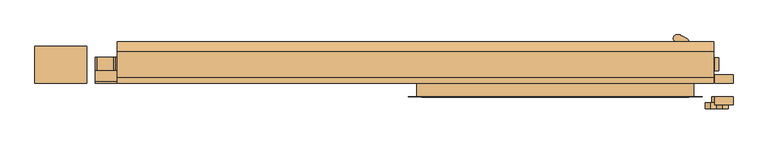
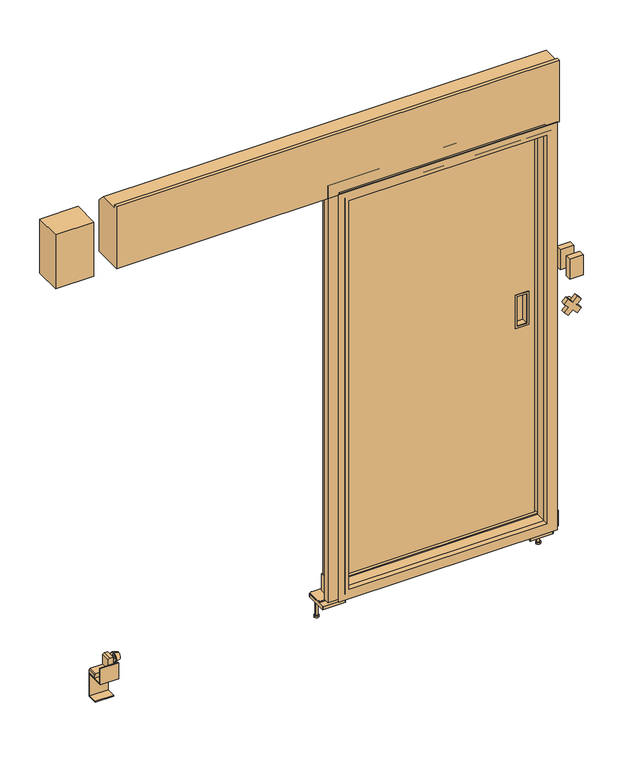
"""IFC4 building model written with IfcOpenShell, lengths in millimetres: door geometry, 冷蔵_片引きスライドドア4方_電動 : W870xH1800xt55."""

from ifc_helpers import new_model, si_unit, point, frame, frame_2d, origin, place, context, project, spatial, polyline, circle_curve, trimmed, segment, composite_curve, outline, extrude, faceted_brep, source, transform, mapped, element, save
from ifc_brep_helpers import plane_surface, cylinder_surface, revolved_surface, advanced_brep


def door_b3f44f39(model_context):
    return source(origin(), model_context, "Body", "SolidModel", [
        faceted_brep([(470.0, 112.5, 1835.0), (-470.0, 112.5, 1835.0), (-470.0, 68.5, 1835.0), (470.0, 68.5, 1835.0), (470.0, 112.5, -35.0), (470.0, 68.5, -35.0), (-470.0, 68.5, -35.0), (-470.0, 112.5, -35.0), (-425.0, 68.5, 1790.0), (425.0, 68.5, 1790.0), (425.0, 68.5, 10.0), (-425.0, 68.5, 10.0), (-425.0, 57.5, 1790.0), (425.0, 57.5, 1790.0), (425.0, 57.5, 10.0), (-425.0, 57.5, 10.0), (350.500035, 57.5, 1033.0), (390.500035, 57.5, 1033.0), (390.500035, 57.5, 897.0), (350.500035, 57.5, 897.0), (350.500035, 85.5, 1033.0), (390.500035, 85.5, 1033.0), (350.500035, 85.5, 897.0), (390.500035, 85.5, 897.0)], [[[0, 1, 2, 3]], [[4, 5, 6, 7]], [[1, 0, 4, 7]], [[2, 1, 7, 6]], [[3, 2, 6, 5], [8, 9, 10, 11]], [[0, 3, 5, 4]], [[8, 12, 13, 9]], [[10, 14, 15, 11]], [[12, 8, 11, 15]], [[13, 12, 15, 14], [16, 17, 18, 19]], [[9, 13, 14, 10]], [[20, 21, 17, 16]], [[20, 16, 19, 22]], [[22, 19, 18, 23]], [[17, 21, 23, 18]], [[21, 20, 22, 23]]]),
        extrude(outline(polyline([(1042.0, 399.500035), (1042.0, 341.500035), (888.0, 341.500035), (888.0, 399.500035), (1042.0, 399.500035)]), holes=[polyline([(897.0, 390.500035), (897.0, 350.500035), (1033.0, 350.500035), (1033.0, 390.500035), (897.0, 390.500035)])]), frame((0.0, 55.499995, 0.0), z_axis=(0.0, 1.0, 0.0), x_axis=(0.0, 0.0, 1.0)), (0.0, 0.0, 1.0), 2.000005),
        extrude(outline(polyline([(73.49997, -69.99999), (61.49997, -57.99999), (61.49997, 5.00001), (111.49997, 5.00001), (111.49997, -69.99999), (73.49997, -69.99999)])), frame((-476.0, 0.0, 0.0), z_axis=(1.0, 0.0, 0.0), x_axis=(0.0, 1.0, 0.0)), (0.0, 0.0, 1.0), 6.0),
        extrude(outline(polyline([(73.49997, -69.99999), (61.49997, -57.99999), (61.49997, 5.00001), (111.49997, 5.00001), (111.49997, -69.99999), (73.49997, -69.99999)])), frame((470.0, 0.0, 0.0), z_axis=(1.0, 0.0, 0.0), x_axis=(0.0, 1.0, 0.0)), (0.0, 0.0, 1.0), 6.0),
        extrude(outline(polyline([(470.0, 112.5), (470.0, 77.49997), (-470.0, 77.49997), (-470.0, 112.5), (470.0, 112.5)])), frame((0.0, 0.0, -69.99999), z_axis=(0.0, 0.0, 1.0), x_axis=(1.0, 0.0, 0.0)), (0.0, 0.0, 1.0), 34.99999),
        extrude(outline(polyline([(-460.4985861, 68.5), (460.4985861, 68.5), (460.4985861, 51.499345), (-460.4985861, 51.499345), (-460.4985861, 68.5)])), frame((0.0, 0.0, -25.0), z_axis=(0.0, 0.0, 1.0), x_axis=(1.0, 0.0, 0.0)), (0.0, 0.0, 1.0), 28.0),
        extrude(outline(polyline([(460.4985861, 48.9116213), (432.5014439, 48.9116213), (432.5014439, 68.5), (460.4985861, 68.5), (460.4985861, 48.9116213)])), frame((0.0, 0.0, 10.0), z_axis=(0.0, 0.0, 1.0), x_axis=(1.0, 0.0, 0.0)), (0.0, 0.0, 1.0), 1780.0),
        extrude(outline(polyline([(-460.4985861, 48.9116213), (-460.4985861, 68.5), (-432.5014439, 68.5), (-432.5014439, 48.9116213), (-460.4985861, 48.9116213)])), frame((0.0, 0.0, 10.0), z_axis=(0.0, 0.0, 1.0), x_axis=(1.0, 0.0, 0.0)), (0.0, 0.0, 1.0), 1780.0),
        extrude(outline(polyline([(460.4985861, 68.5), (460.4985861, 48.9116213), (-460.4985861, 48.9116213), (-460.4985861, 68.5), (460.4985861, 68.5)])), frame((0.0, 0.0, 1797.4986091), z_axis=(0.0, 0.0, 1.0), x_axis=(1.0, 0.0, 0.0)), (0.0, 0.0, 1.0), 28.0),
        extrude(outline(composite_curve([segment(trimmed(circle_curve(frame_2d((-405.4890522, 152.0220459)), 2.0), [point((-405.4890522, 154.0220459))], [point((-403.4890522, 152.0220459))], False, "CARTESIAN"), True, "CONTINUOUS"), segment(polyline([(-403.4890522, 152.0220459), (-403.4890522, 54.0220459)]), True, "CONTINUOUS"), segment(trimmed(circle_curve(frame_2d((-405.4890522, 54.0220459)), 2.0), [point((-403.4890522, 54.0220459))], [point((-405.4890522, 52.0220459))], False, "CARTESIAN"), True, "CONTINUOUS"), segment(polyline([(-405.4890522, 52.0220459), (-503.4890522, 52.0220459)]), True, "CONTINUOUS"), segment(trimmed(circle_curve(frame_2d((-503.4890522, 54.0220459)), 2.0), [point((-503.4890522, 52.0220459))], [point((-505.4890522, 54.0220459))], False, "CARTESIAN"), True, "CONTINUOUS"), segment(polyline([(-505.4890522, 54.0220459), (-505.4890522, 152.0220459)]), True, "CONTINUOUS"), segment(trimmed(circle_curve(frame_2d((-503.4890522, 152.0220459)), 2.0), [point((-505.4890522, 152.0220459))], [point((-503.4890522, 154.0220459))], False, "CARTESIAN"), True, "CONTINUOUS"), segment(polyline([(-503.4890522, 154.0220459), (-405.4890522, 154.0220459)]), True, "CONTINUOUS")], self_intersect=False)), frame((0.0, 0.0, -115.0), z_axis=(0.0, 0.0, 1.0), x_axis=(1.0, 0.0, 0.0)), (0.0, 0.0, 1.0), 15.0),
        extrude(outline(composite_curve([segment(trimmed(circle_curve(frame_2d((503.00008, 152.0)), 2.0), [point((503.00008, 154.0))], [point((505.00008, 152.0))], False, "CARTESIAN"), True, "CONTINUOUS"), segment(polyline([(505.00008, 152.0), (505.00008, 54.0)]), True, "CONTINUOUS"), segment(trimmed(circle_curve(frame_2d((503.00008, 54.0)), 2.0), [point((505.00008, 54.0))], [point((503.00008, 52.0))], False, "CARTESIAN"), True, "CONTINUOUS"), segment(polyline([(503.00008, 52.0), (405.00008, 52.0)]), True, "CONTINUOUS"), segment(trimmed(circle_curve(frame_2d((405.00008, 54.0)), 2.0), [point((405.00008, 52.0))], [point((403.00008, 54.0))], False, "CARTESIAN"), True, "CONTINUOUS"), segment(polyline([(403.00008, 54.0), (403.00008, 152.0)]), True, "CONTINUOUS"), segment(trimmed(circle_curve(frame_2d((405.00008, 152.0)), 2.0), [point((403.00008, 152.0))], [point((405.00008, 154.0))], False, "CARTESIAN"), True, "CONTINUOUS"), segment(polyline([(405.00008, 154.0), (503.00008, 154.0)]), True, "CONTINUOUS")], self_intersect=False)), frame((0.0, 0.0, -115.0), z_axis=(0.0, 0.0, 1.0), x_axis=(1.0, 0.0, 0.0)), (0.0, 0.0, 1.0), 15.0),
        extrude(outline(composite_curve([segment(polyline([(-433.999205, 141.49999), (-433.999205, 90.49999)]), True, "CONTINUOUS"), segment(trimmed(circle_curve(frame_2d((-443.999205, 90.49999)), 10.0), [point((-433.999205, 90.49999))], [point((-443.999205, 80.49999))], False, "CARTESIAN"), True, "CONTINUOUS"), segment(polyline([(-443.999205, 80.49999), (-495.0, 80.49999)]), True, "CONTINUOUS"), segment(trimmed(circle_curve(frame_2d((-495.0, 90.49999)), 10.0), [point((-495.0, 80.49999))], [point((-505.0, 90.49999))], False, "CARTESIAN"), True, "CONTINUOUS"), segment(polyline([(-505.0, 90.49999), (-505.0, 141.49999)]), True, "CONTINUOUS"), segment(trimmed(circle_curve(frame_2d((-495.0, 141.49999)), 10.0), [point((-505.0, 141.49999))], [point((-495.0, 151.49999))], False, "CARTESIAN"), True, "CONTINUOUS"), segment(polyline([(-495.0, 151.49999), (-443.999205, 151.49999)]), True, "CONTINUOUS"), segment(trimmed(circle_curve(frame_2d((-443.999205, 141.49999)), 10.0), [point((-443.999205, 151.49999))], [point((-433.999205, 141.49999))], False, "CARTESIAN"), True, "CONTINUOUS")], self_intersect=False)), frame((0.0, 0.0, -100.0), z_axis=(0.0, 0.0, 1.0), x_axis=(1.0, 0.0, 0.0)), (0.0, 0.0, 1.0), 6.0),
        extrude(outline(composite_curve([segment(polyline([(504.50016, 141.49999), (504.50016, 90.49999)]), True, "CONTINUOUS"), segment(trimmed(circle_curve(frame_2d((494.50016, 90.49999)), 10.0), [point((504.50016, 90.49999))], [point((494.50016, 80.49999))], False, "CARTESIAN"), True, "CONTINUOUS"), segment(polyline([(494.50016, 80.49999), (443.499365, 80.49999)]), True, "CONTINUOUS"), segment(trimmed(circle_curve(frame_2d((443.499365, 90.49999)), 10.0), [point((443.499365, 80.49999))], [point((433.499365, 90.49999))], False, "CARTESIAN"), True, "CONTINUOUS"), segment(polyline([(433.499365, 90.49999), (433.499365, 141.49999)]), True, "CONTINUOUS"), segment(trimmed(circle_curve(frame_2d((443.499365, 141.49999)), 10.0), [point((433.499365, 141.49999))], [point((443.499365, 151.49999))], False, "CARTESIAN"), True, "CONTINUOUS"), segment(polyline([(443.499365, 151.49999), (494.50016, 151.49999)]), True, "CONTINUOUS"), segment(trimmed(circle_curve(frame_2d((494.50016, 141.49999)), 10.0), [point((494.50016, 151.49999))], [point((504.50016, 141.49999))], False, "CARTESIAN"), True, "CONTINUOUS")], self_intersect=False)), frame((0.0, 0.0, -100.0), z_axis=(0.0, 0.0, 1.0), x_axis=(1.0, 0.0, 0.0)), (0.0, 0.0, 1.0), 6.0),
        extrude(outline(polyline([(-93.999374, 532.0), (-24.00937, 532.0), (-24.00229, 517.0), (-29.00275, 511.99999), (-74.00938, 511.99999), (-74.00689, 457.0), (-79.00735, 451.99999), (-94.00939, 451.99999), (-93.999374, 532.0)])), frame((0.0, 61.99775, 0.0), z_axis=(0.0, 1.0, 0.0), x_axis=(0.0, 0.0, 1.0)), (0.0, 0.0, 1.0), 42.00225),
        extrude(outline(polyline([(1037.123106, 544.9454365), (1017.6776695, 525.5), (1037.123106, 506.0545635), (1019.4454365, 488.376894), (1000.0, 507.8223305), (980.5545635, 488.376894), (962.876894, 506.0545635), (982.3223305, 525.5), (962.876894, 544.9454365), (980.5545635, 562.623106), (1000.0, 543.1776695), (1019.4454365, 562.623106), (1037.123106, 544.9454365)])), frame((0.0, -62.0, 0.0), z_axis=(0.0, 1.0, 0.0), x_axis=(0.0, 0.0, 1.0)), (0.0, 0.0, 1.0), 20.0),
        extrude(outline(composite_curve([segment(trimmed(circle_curve(frame_2d((1000.0, 525.5)), 16.99999), [point((983.00001, 525.5))], [point((1016.99999, 525.5))], False, "CARTESIAN"), True, "CONTINUOUS"), segment(trimmed(circle_curve(frame_2d((1000.0, 525.5)), 16.99999), [point((1016.99999, 525.5))], [point((983.00001, 525.5))], False, "CARTESIAN"), True, "CONTINUOUS")], self_intersect=False)), frame((0.0, -42.0, 0.0), z_axis=(0.0, 1.0, 0.0), x_axis=(0.0, 0.0, 1.0)), (0.0, 0.0, 1.0), 20.0),
        advanced_brep(
        [(-1404.999995, 85.0, -58.99311), (-1404.999995, 85.0, -19.0), (-1404.999995, 85.0, -30.996555), (-1404.999995, 85.0, -46.996555), (-1400.999995, 85.0, -58.99311), (-1400.999995, 85.0, -19.0), (-1380.999995, 85.0, -53.9931073), (-1380.999995, 85.0, -24.0000027), (-1380.999995, 85.0, -38.996555), (-1416.99999, 85.0, -46.996555), (-1416.99999, 85.0, -30.996555), (-1416.99999, 85.0, -38.996555)],
        [
            (0, 1, circle_curve(frame((-1404.999995, 85.0, -38.996555), z_axis=(-1.0, 0.0, 0.0), x_axis=(0.0, 0.0, 1.0)), 19.996555)),
            (1, 2),
            (2, 3, circle_curve(frame((-1404.999995, 85.0, -38.996555), z_axis=(1.0, 0.0, 0.0), x_axis=(0.0, 0.0, 1.0)), 8.0)),
            (3, 0),
            (1, 0, circle_curve(frame((-1404.999995, 85.0, -38.996555), z_axis=(-1.0, 0.0, 0.0), x_axis=(0.0, 0.0, 1.0)), 19.996555)),
            (3, 2, circle_curve(frame((-1404.999995, 85.0, -38.996555), z_axis=(1.0, 0.0, 0.0), x_axis=(0.0, 0.0, 1.0)), 8.0)),
            (4, 5, circle_curve(frame((-1400.999995, 85.0, -38.996555), z_axis=(-1.0, 0.0, 0.0), x_axis=(0.0, 0.0, 1.0)), 19.996555)),
            (5, 1),
            (0, 4),
            (5, 4, circle_curve(frame((-1400.999995, 85.0, -38.996555), z_axis=(-1.0, 0.0, 0.0), x_axis=(0.0, 0.0, 1.0)), 19.996555)),
            (6, 7, circle_curve(frame((-1380.999995, 85.0, -38.996555), z_axis=(-1.0, 0.0, 0.0), x_axis=(0.0, 0.0, 1.0)), 14.9965523)),
            (7, 5),
            (4, 6),
            (7, 6, circle_curve(frame((-1380.999995, 85.0, -38.996555), z_axis=(-1.0, 0.0, 0.0), x_axis=(0.0, 0.0, 1.0)), 14.9965523)),
            (8, 7),
            (6, 8),
            (9, 10, circle_curve(frame((-1416.99999, 85.0, -38.996555), z_axis=(-1.0, 0.0, 0.0), x_axis=(0.0, 0.0, 1.0)), 8.0)),
            (10, 11),
            (11, 9),
            (10, 9, circle_curve(frame((-1416.99999, 85.0, -38.996555), z_axis=(-1.0, 0.0, 0.0), x_axis=(0.0, 0.0, 1.0)), 8.0)),
            (2, 10),
            (9, 3),
        ],
        [
            plane_surface(frame((-1404.999995, 85.0, -38.996555), z_axis=(-1.0, 0.0, 0.0), x_axis=(0.0, 0.0, 1.0))),
            cylinder_surface(frame((-1380.999995, 85.0, -38.996555), z_axis=(1.0, 0.0, 0.0), x_axis=(0.0, 0.0, 1.0)), 19.996555),
            revolved_surface(polyline([(-1400.999995, 85.0, -19.0), (-1380.999995, 85.0, -24.0000027)]), (-1380.999995, 85.0, -38.996555), (1.0, 0.0, 0.0)),
            plane_surface(frame((-1380.999995, 85.0, -38.996555), z_axis=(1.0, 0.0, 0.0), x_axis=(0.0, 0.0, 1.0))),
            plane_surface(frame((-1416.99999, 85.0, -38.996555), z_axis=(-1.0, 0.0, 0.0), x_axis=(0.0, 0.0, 1.0))),
            cylinder_surface(frame((-1380.999995, 85.0, -38.996555), z_axis=(1.0, 0.0, 0.0), x_axis=(0.0, 0.0, 1.0)), 8.0),
        ],
        [
            (0, [[1, 2, 3, 4]]),
            (0, [[5, -4, 6, -2]]),
            (1, [[7, 8, -1, 9]]),
            (1, [[10, -9, -5, -8]]),
            (2, [[11, 12, -7, 13]]),
            (2, [[14, -13, -10, -12]]),
            (3, [[15, -11, 16]]),
            (3, [[-16, -14, -15]]),
            (4, [[17, 18, 19]]),
            (4, [[20, -19, -18]]),
            (5, [[-3, 21, -17, 22]]),
            (5, [[-6, -22, -20, -21]]),
        ],
    ),
        extrude(outline(polyline([(-91.983954, -1416.99999), (-21.99395, -1416.99999), (-21.98687, -1431.99999), (-26.98733, -1437.0), (-71.99396, -1437.0), (-71.99147, -1491.99999), (-76.99193, -1497.0), (-91.99397, -1497.0), (-91.983954, -1416.99999)])), frame((0.0, 63.99775, 0.0), z_axis=(0.0, 1.0, 0.0), x_axis=(0.0, 0.0, 1.0)), (0.0, 0.0, 1.0), 42.00225),
        advanced_brep(
        [(499.999995, 83.0, -61.00853), (499.999995, 83.0, -21.01542), (499.999995, 83.0, -33.011975), (499.999995, 83.0, -49.011975), (495.999995, 83.0, -61.00853), (495.999995, 83.0, -21.01542), (475.999995, 83.0, -56.0085273), (475.999995, 83.0, -26.0154227), (475.999995, 83.0, -41.011975), (511.99999, 83.0, -49.011975), (511.99999, 83.0, -33.011975), (511.99999, 83.0, -41.011975)],
        [
            (0, 1, circle_curve(frame((499.999995, 83.0, -41.011975), z_axis=(1.0, 0.0, 0.0), x_axis=(0.0, 0.0, 1.0)), 19.996555)),
            (1, 2),
            (2, 3, circle_curve(frame((499.999995, 83.0, -41.011975), z_axis=(-1.0, 0.0, 0.0), x_axis=(0.0, 0.0, 1.0)), 8.0)),
            (3, 0),
            (1, 0, circle_curve(frame((499.999995, 83.0, -41.011975), z_axis=(1.0, 0.0, 0.0), x_axis=(0.0, 0.0, 1.0)), 19.996555)),
            (3, 2, circle_curve(frame((499.999995, 83.0, -41.011975), z_axis=(-1.0, 0.0, 0.0), x_axis=(0.0, 0.0, 1.0)), 8.0)),
            (4, 5, circle_curve(frame((495.999995, 83.0, -41.011975), z_axis=(1.0, 0.0, 0.0), x_axis=(0.0, 0.0, 1.0)), 19.996555)),
            (5, 1),
            (0, 4),
            (5, 4, circle_curve(frame((495.999995, 83.0, -41.011975), z_axis=(1.0, 0.0, 0.0), x_axis=(0.0, 0.0, 1.0)), 19.996555)),
            (6, 7, circle_curve(frame((475.999995, 83.0, -41.011975), z_axis=(1.0, 0.0, 0.0), x_axis=(0.0, 0.0, 1.0)), 14.9965523)),
            (7, 5),
            (4, 6),
            (7, 6, circle_curve(frame((475.999995, 83.0, -41.011975), z_axis=(1.0, 0.0, 0.0), x_axis=(0.0, 0.0, 1.0)), 14.9965523)),
            (8, 7),
            (6, 8),
            (9, 10, circle_curve(frame((511.99999, 83.0, -41.011975), z_axis=(1.0, 0.0, 0.0), x_axis=(0.0, 0.0, 1.0)), 8.0)),
            (10, 11),
            (11, 9),
            (10, 9, circle_curve(frame((511.99999, 83.0, -41.011975), z_axis=(1.0, 0.0, 0.0), x_axis=(0.0, 0.0, 1.0)), 8.0)),
            (2, 10),
            (9, 3),
        ],
        [
            plane_surface(frame((499.999995, 83.0, -41.011975), z_axis=(1.0, 0.0, 0.0), x_axis=(0.0, 0.0, 1.0))),
            cylinder_surface(frame((475.999995, 83.0, -41.011975), z_axis=(-1.0, 0.0, 0.0), x_axis=(0.0, 0.0, 1.0)), 19.996555),
            revolved_surface(polyline([(495.999995, 83.0, -21.01542), (475.999995, 83.0, -26.0154227)]), (475.999995, 83.0, -41.011975), (-1.0, 0.0, 0.0)),
            plane_surface(frame((475.999995, 83.0, -41.011975), z_axis=(-1.0, 0.0, 0.0), x_axis=(0.0, 0.0, 1.0))),
            plane_surface(frame((511.99999, 83.0, -41.011975), z_axis=(1.0, 0.0, 0.0), x_axis=(0.0, 0.0, 1.0))),
            cylinder_surface(frame((475.999995, 83.0, -41.011975), z_axis=(-1.0, 0.0, 0.0), x_axis=(0.0, 0.0, 1.0)), 8.0),
        ],
        [
            (0, [[1, 2, 3, 4]]),
            (0, [[5, -4, 6, -2]]),
            (1, [[7, 8, -1, 9]]),
            (1, [[10, -9, -5, -8]]),
            (2, [[11, 12, -7, 13]]),
            (2, [[14, -13, -10, -12]]),
            (3, [[15, -11, 16]]),
            (3, [[-16, -14, -15]]),
            (4, [[17, 18, 19]]),
            (4, [[20, -19, -18]]),
            (5, [[-3, 21, -17, 22]]),
            (5, [[-6, -22, -20, -21]]),
        ],
    ),
        extrude(outline(polyline([(155.5, 2042.61005), (155.5, 1805.000385), (22.0, 1805.000385), (22.0, 2090.0), (38.499875, 2090.0), (38.499875, 2074.99995), (123.1101, 2074.99995), (155.5, 2042.61005)])), frame((-1425.0, 0.0, 0.0), z_axis=(1.0, 0.0, 0.0), x_axis=(0.0, 1.0, 0.0)), (0.0, 0.0, 1.0), 1940.0),
        extrude(outline(polyline([(578.59682, -49.2), (518.59706, -49.2), (518.59706, -22.0), (578.59682, -22.0), (578.59682, -49.2)])), frame((0.0, 0.0, 1117.99977), z_axis=(0.0, 0.0, 1.0), x_axis=(1.0, 0.0, 0.0)), (0.0, 0.0, 1.0), 93.00027),
        extrude(outline(polyline([(578.59682, 22.0), (518.59706, 22.0), (518.59706, 49.2056305), (578.59682, 49.2056305), (578.59682, 22.0)])), frame((0.0, 0.0, 1117.99977), z_axis=(0.0, 0.0, 1.0), x_axis=(1.0, 0.0, 0.0)), (0.0, 0.0, 1.0), 93.00027),
        faceted_brep([(451.00103, 22.0, -16.00103), (451.00103, -22.0, -16.00103), (-451.00103, -22.0, -16.00103), (-451.00103, 22.0, -16.00103), (-451.00103, -22.0, 1816.00103), (-451.00103, 22.0, 1816.00103), (451.00103, -22.0, 1816.00103), (-435.0, -22.0, 1800.0), (435.0, -22.0, 1800.0), (435.0, -22.0, 0.0), (-435.0, -22.0, 0.0), (-500.0, 22.0, -65.0), (500.0, 22.0, -65.0), (500.0, 22.0, 1865.0), (-500.0, 22.0, 1865.0), (451.00103, 22.0, 1816.00103), (500.0, 49.0, -65.0), (-500.0, 49.0, -65.0), (-500.0, 49.0, 1865.0), (500.0, 49.0, 1865.0), (-435.0, 49.0, 0.0), (435.0, 49.0, 0.0), (435.0, 49.0, 1800.0), (-435.0, 49.0, 1800.0)], [[[0, 1, 2, 3]], [[3, 2, 4, 5]], [[2, 1, 6, 4], [7, 8, 9, 10]], [[11, 12, 13, 14], [5, 15, 0, 3]], [[16, 12, 11, 17]], [[17, 11, 14, 18]], [[18, 19, 16, 17], [20, 21, 22, 23]], [[9, 21, 20, 10]], [[10, 20, 23, 7]], [[15, 6, 1, 0]], [[19, 13, 12, 16]], [[8, 22, 21, 9]], [[5, 4, 6, 15]], [[18, 14, 13, 19]], [[7, 23, 22, 8]]]),
        faceted_brep([(479.0, -22.0, -44.0), (479.0, -23.2, -44.0), (-479.0, -23.2, -44.0), (-479.0, -22.0, -44.0), (-479.0, -23.2, 1844.0), (-479.0, -22.0, 1844.0), (479.0, -23.2, 1844.0), (-433.8, -23.2, 1798.8), (433.8, -23.2, 1798.8), (433.8, -23.2, 1.2), (-433.8, -23.2, 1.2), (479.0, -22.0, 1844.0), (-435.0, -22.0, 0.0), (435.0, -22.0, 0.0), (435.0, -22.0, 1800.0), (-435.0, -22.0, 1800.0), (435.0, -1.2, 0.0), (-435.0, -1.2, 0.0), (-435.0, -1.2, 1800.0), (435.0, -1.2, 1800.0), (-433.8, -1.2, 1.2), (433.8, -1.2, 1.2), (433.8, -1.2, 1798.8), (-433.8, -1.2, 1798.8)], [[[0, 1, 2, 3]], [[3, 2, 4, 5]], [[2, 1, 6, 4], [7, 8, 9, 10]], [[5, 11, 0, 3], [12, 13, 14, 15]], [[16, 13, 12, 17]], [[17, 12, 15, 18]], [[18, 19, 16, 17], [20, 21, 22, 23]], [[9, 21, 20, 10]], [[10, 20, 23, 7]], [[11, 6, 1, 0]], [[19, 14, 13, 16]], [[8, 22, 21, 9]], [[5, 4, 6, 11]], [[18, 15, 14, 19]], [[7, 23, 22, 8]]]),
        advanced_brep(
        [(408.6234406, 177.3571279, 745.0), (408.6234402, 157.6428419, 745.0), (404.50281, 156.499985, 745.0), (393.89726, 156.499985, 745.0), (389.7766295, 157.6428424, 745.0), (389.7766298, 177.3571281, 745.0), (393.89726, 178.499985, 745.0), (404.50281, 178.499985, 745.0), (408.6234406, 177.3571279, 1245.0), (408.6234402, 157.6428419, 1245.0), (404.50281, 156.499985, 1245.0), (393.89726, 156.499985, 1245.0), (389.7766295, 157.6428424, 1245.0), (389.7766298, 177.3571281, 1245.0), (393.89726, 178.499985, 1245.0), (404.50281, 178.499985, 1245.0)],
        [
            (0, 1, circle_curve(frame((402.700035, 167.499985, 745.0), z_axis=(0.0, 0.0, -1.0), x_axis=(0.0, -1.0, 0.0)), 11.5)),
            (1, 2, circle_curve(frame((404.50281, 164.499985, 745.0), z_axis=(0.0, 0.0, -1.0), x_axis=(0.0, -1.0, 0.0)), 8.0)),
            (2, 3),
            (3, 4, circle_curve(frame((393.89726, 164.499985, 745.0), z_axis=(0.0, 0.0, -1.0), x_axis=(0.0, -1.0, 0.0)), 8.0)),
            (4, 5, circle_curve(frame((395.700035, 167.499985, 745.0), z_axis=(0.0, 0.0, -1.0), x_axis=(0.0, -1.0, 0.0)), 11.5)),
            (5, 6, circle_curve(frame((393.89726, 170.499985, 745.0), z_axis=(0.0, 0.0, -1.0), x_axis=(0.0, -1.0, 0.0)), 8.0)),
            (6, 7),
            (7, 0, circle_curve(frame((404.50281, 170.499985, 745.0), z_axis=(0.0, 0.0, -1.0), x_axis=(0.0, -1.0, 0.0)), 8.0)),
            (8, 9, circle_curve(frame((402.700035, 167.499985, 1245.0), z_axis=(0.0, 0.0, -1.0), x_axis=(0.0, -1.0, 0.0)), 11.5)),
            (9, 1),
            (0, 8),
            (9, 10, circle_curve(frame((404.50281, 164.499985, 1245.0), z_axis=(0.0, 0.0, -1.0), x_axis=(0.0, -1.0, 0.0)), 8.0)),
            (10, 2),
            (10, 11),
            (11, 3),
            (11, 12, circle_curve(frame((393.89726, 164.499985, 1245.0), z_axis=(0.0, 0.0, -1.0), x_axis=(0.0, -1.0, 0.0)), 8.0)),
            (12, 4),
            (12, 13, circle_curve(frame((395.700035, 167.499985, 1245.0), z_axis=(0.0, 0.0, -1.0), x_axis=(0.0, -1.0, 0.0)), 11.5)),
            (13, 5),
            (13, 14, circle_curve(frame((393.89726, 170.499985, 1245.0), z_axis=(0.0, 0.0, -1.0), x_axis=(0.0, -1.0, 0.0)), 8.0)),
            (14, 6),
            (14, 15),
            (15, 7),
            (15, 8, circle_curve(frame((404.50281, 170.499985, 1245.0), z_axis=(0.0, 0.0, -1.0), x_axis=(0.0, -1.0, 0.0)), 8.0)),
        ],
        [
            plane_surface(frame((404.50281, 162.499985, 745.0), z_axis=(0.0, 0.0, -1.0), x_axis=(-1.0, 0.0, 0.0))),
            cylinder_surface(frame((402.700035, 167.499985, 745.0), z_axis=(0.0, 0.0, 1.0), x_axis=(0.0, -1.0, 0.0)), 11.5),
            cylinder_surface(frame((404.50281, 164.499985, 745.0), z_axis=(0.0, 0.0, 1.0), x_axis=(0.0, -1.0, 0.0)), 8.0),
            plane_surface(frame((393.89726, 156.499985, 1245.0), z_axis=(0.0, -1.0, 0.0), x_axis=(0.0, 0.0, -1.0))),
            cylinder_surface(frame((393.89726, 164.499985, 745.0), z_axis=(0.0, 0.0, 1.0), x_axis=(0.0, -1.0, 0.0)), 8.0),
            cylinder_surface(frame((395.700035, 167.499985, 745.0), z_axis=(0.0, 0.0, 1.0), x_axis=(0.0, -1.0, 0.0)), 11.5),
            cylinder_surface(frame((393.89726, 170.499985, 745.0), z_axis=(0.0, 0.0, 1.0), x_axis=(0.0, -1.0, 0.0)), 8.0),
            plane_surface(frame((404.50281, 178.499985, 1245.0), z_axis=(0.0, 1.0, 0.0), x_axis=(0.0, 0.0, -1.0))),
            cylinder_surface(frame((404.50281, 170.499985, 745.0), z_axis=(0.0, 0.0, 1.0), x_axis=(0.0, -1.0, 0.0)), 8.0),
            plane_surface(frame((404.50281, 162.499985, 1245.0), z_axis=(0.0, 0.0, 1.0), x_axis=(1.0, 0.0, 0.0))),
        ],
        [
            (0, [[1, 2, 3, 4, 5, 6, 7, 8]]),
            (1, [[9, 10, -1, 11]]),
            (2, [[12, 13, -2, -10]]),
            (3, [[14, 15, -3, -13]]),
            (4, [[16, 17, -4, -15]]),
            (5, [[18, 19, -5, -17]]),
            (6, [[20, 21, -6, -19]]),
            (7, [[22, 23, -7, -21]]),
            (8, [[24, -11, -8, -23]]),
            (9, [[-24, -22, -20, -18, -16, -14, -12, -9]]),
        ],
    ),
        advanced_brep(
        [(-486.0, 132.5, -200.0), (-476.0, 132.5, -200.0), (-496.0, 132.5, -200.0), (-491.0, 132.5, -115.0), (-481.0, 132.5, -115.0), (-486.0, 132.5, -115.0), (-491.0, 132.5, -193.0), (-481.0, 132.5, -193.0), (-496.0, 132.5, -193.0), (-476.0, 132.5, -193.0)],
        [
            (0, 1),
            (1, 2, circle_curve(frame((-486.0, 132.5, -200.0), z_axis=(0.0, 0.0, -1.0), x_axis=(1.0, 0.0, 0.0)), 10.0)),
            (2, 0),
            (2, 1, circle_curve(frame((-486.0, 132.5, -200.0), z_axis=(0.0, 0.0, -1.0), x_axis=(1.0, 0.0, 0.0)), 10.0)),
            (3, 4, circle_curve(frame((-486.0, 132.5, -115.0), z_axis=(0.0, 0.0, 1.0), x_axis=(1.0, 0.0, 0.0)), 5.0)),
            (4, 5),
            (5, 3),
            (4, 3, circle_curve(frame((-486.0, 132.5, -115.0), z_axis=(0.0, 0.0, 1.0), x_axis=(1.0, 0.0, 0.0)), 5.0)),
            (6, 7, circle_curve(frame((-486.0, 132.5, -193.0), z_axis=(0.0, 0.0, 1.0), x_axis=(1.0, 0.0, 0.0)), 5.0)),
            (7, 4),
            (3, 6),
            (7, 6, circle_curve(frame((-486.0, 132.5, -193.0), z_axis=(0.0, 0.0, 1.0), x_axis=(1.0, 0.0, 0.0)), 5.0)),
            (8, 9, circle_curve(frame((-486.0, 132.5, -193.0), z_axis=(0.0, 0.0, 1.0), x_axis=(1.0, 0.0, 0.0)), 10.0)),
            (9, 7),
            (6, 8),
            (9, 8, circle_curve(frame((-486.0, 132.5, -193.0), z_axis=(0.0, 0.0, 1.0), x_axis=(1.0, 0.0, 0.0)), 10.0)),
            (1, 9),
            (8, 2),
        ],
        [
            plane_surface(frame((-486.0, 132.5, -200.0), z_axis=(0.0, 0.0, -1.0), x_axis=(1.0, 0.0, 0.0))),
            plane_surface(frame((-486.0, 132.5, -115.0), z_axis=(0.0, 0.0, 1.0), x_axis=(1.0, 0.0, 0.0))),
            cylinder_surface(frame((-486.0, 132.5, -262.0), z_axis=(0.0, 0.0, -1.0), x_axis=(1.0, 0.0, 0.0)), 5.0),
            plane_surface(frame((-486.0, 132.5, -193.0), z_axis=(0.0, 0.0, 1.0), x_axis=(1.0, 0.0, 0.0))),
            cylinder_surface(frame((-486.0, 132.5, -262.0), z_axis=(0.0, 0.0, -1.0), x_axis=(1.0, 0.0, 0.0)), 10.0),
        ],
        [
            (0, [[1, 2, 3]]),
            (0, [[-3, 4, -1]]),
            (1, [[5, 6, 7]]),
            (1, [[8, -7, -6]]),
            (2, [[9, 10, -5, 11]]),
            (2, [[12, -11, -8, -10]]),
            (3, [[13, 14, -9, 15]]),
            (3, [[16, -15, -12, -14]]),
            (4, [[-2, 17, -13, 18]]),
            (4, [[-4, -18, -16, -17]]),
        ],
    ),
        advanced_brep(
        [(485.50016, 132.5, -200.0), (495.50016, 132.5, -200.0), (475.50016, 132.5, -200.0), (480.50016, 132.5, -115.0), (490.50016, 132.5, -115.0), (485.50016, 132.5, -115.0), (480.50016, 132.5, -193.0), (490.50016, 132.5, -193.0), (475.50016, 132.5, -193.0), (495.50016, 132.5, -193.0)],
        [
            (0, 1),
            (1, 2, circle_curve(frame((485.50016, 132.5, -200.0), z_axis=(0.0, 0.0, -1.0), x_axis=(1.0, 0.0, 0.0)), 10.0)),
            (2, 0),
            (2, 1, circle_curve(frame((485.50016, 132.5, -200.0), z_axis=(0.0, 0.0, -1.0), x_axis=(1.0, 0.0, 0.0)), 10.0)),
            (3, 4, circle_curve(frame((485.50016, 132.5, -115.0), z_axis=(0.0, 0.0, 1.0), x_axis=(1.0, 0.0, 0.0)), 5.0)),
            (4, 5),
            (5, 3),
            (4, 3, circle_curve(frame((485.50016, 132.5, -115.0), z_axis=(0.0, 0.0, 1.0), x_axis=(1.0, 0.0, 0.0)), 5.0)),
            (6, 7, circle_curve(frame((485.50016, 132.5, -193.0), z_axis=(0.0, 0.0, 1.0), x_axis=(1.0, 0.0, 0.0)), 5.0)),
            (7, 4),
            (3, 6),
            (7, 6, circle_curve(frame((485.50016, 132.5, -193.0), z_axis=(0.0, 0.0, 1.0), x_axis=(1.0, 0.0, 0.0)), 5.0)),
            (8, 9, circle_curve(frame((485.50016, 132.5, -193.0), z_axis=(0.0, 0.0, 1.0), x_axis=(1.0, 0.0, 0.0)), 10.0)),
            (9, 7),
            (6, 8),
            (9, 8, circle_curve(frame((485.50016, 132.5, -193.0), z_axis=(0.0, 0.0, 1.0), x_axis=(1.0, 0.0, 0.0)), 10.0)),
            (1, 9),
            (8, 2),
        ],
        [
            plane_surface(frame((485.50016, 132.5, -200.0), z_axis=(0.0, 0.0, -1.0), x_axis=(1.0, 0.0, 0.0))),
            plane_surface(frame((485.50016, 132.5, -115.0), z_axis=(0.0, 0.0, 1.0), x_axis=(1.0, 0.0, 0.0))),
            cylinder_surface(frame((485.50016, 132.5, -262.0), z_axis=(0.0, 0.0, -1.0), x_axis=(1.0, 0.0, 0.0)), 5.0),
            plane_surface(frame((485.50016, 132.5, -193.0), z_axis=(0.0, 0.0, 1.0), x_axis=(1.0, 0.0, 0.0))),
            cylinder_surface(frame((485.50016, 132.5, -262.0), z_axis=(0.0, 0.0, -1.0), x_axis=(1.0, 0.0, 0.0)), 10.0),
        ],
        [
            (0, [[1, 2, 3]]),
            (0, [[-3, 4, -1]]),
            (1, [[5, 6, 7]]),
            (1, [[8, -7, -6]]),
            (2, [[9, 10, -5, 11]]),
            (2, [[12, -11, -8, -10]]),
            (3, [[13, 14, -9, 15]]),
            (3, [[16, -15, -12, -14]]),
            (4, [[-2, 17, -13, 18]]),
            (4, [[-4, -18, -16, -17]]),
        ],
    ),
        advanced_brep(
        [(460.499365, 132.5, -72.0), (444.499365, 132.5, -72.0), (444.499365, 132.5, -94.0), (460.499365, 132.5, -94.0), (452.499365, 132.5, -94.0), (452.499365, 132.5, -47.0), (440.499365, 132.5, -47.0), (464.499365, 132.5, -47.0), (440.499365, 132.5, -72.0), (464.499365, 132.5, -72.0)],
        [
            (0, 1, circle_curve(frame((452.499365, 132.5, -72.0), z_axis=(0.0, 0.0, -1.0), x_axis=(-1.0, 0.0, 0.0)), 8.0)),
            (1, 2),
            (2, 3, circle_curve(frame((452.499365, 132.5, -94.0), z_axis=(0.0, 0.0, 1.0), x_axis=(-1.0, 0.0, 0.0)), 8.0)),
            (3, 0),
            (1, 0, circle_curve(frame((452.499365, 132.5, -72.0), z_axis=(0.0, 0.0, -1.0), x_axis=(-1.0, 0.0, 0.0)), 8.0)),
            (3, 2, circle_curve(frame((452.499365, 132.5, -94.0), z_axis=(0.0, 0.0, 1.0), x_axis=(-1.0, 0.0, 0.0)), 8.0)),
            (2, 4),
            (4, 3),
            (5, 6),
            (6, 7, circle_curve(frame((452.499365, 132.5, -47.0), z_axis=(0.0, 0.0, 1.0), x_axis=(-1.0, 0.0, 0.0)), 12.0)),
            (7, 5),
            (7, 6, circle_curve(frame((452.499365, 132.5, -47.0), z_axis=(0.0, 0.0, 1.0), x_axis=(-1.0, 0.0, 0.0)), 12.0)),
            (6, 8),
            (8, 9, circle_curve(frame((452.499365, 132.5, -72.0), z_axis=(0.0, 0.0, 1.0), x_axis=(-1.0, 0.0, 0.0)), 12.0)),
            (9, 7),
            (9, 8, circle_curve(frame((452.499365, 132.5, -72.0), z_axis=(0.0, 0.0, 1.0), x_axis=(-1.0, 0.0, 0.0)), 12.0)),
            (8, 1),
            (0, 9),
        ],
        [
            cylinder_surface(frame((452.499365, 132.5, -108.3617704), z_axis=(0.0, 0.0, 1.0), x_axis=(-1.0, 0.0, 0.0)), 8.0),
            plane_surface(frame((452.499365, 132.5, -94.0), z_axis=(0.0, 0.0, -1.0), x_axis=(-1.0, 0.0, 0.0))),
            plane_surface(frame((452.499365, 132.5, -47.0), z_axis=(0.0, 0.0, 1.0), x_axis=(-1.0, 0.0, 0.0))),
            cylinder_surface(frame((452.499365, 132.5, -108.3617704), z_axis=(0.0, 0.0, 1.0), x_axis=(-1.0, 0.0, 0.0)), 12.0),
            plane_surface(frame((452.499365, 132.5, -72.0), z_axis=(0.0, 0.0, -1.0), x_axis=(-1.0, 0.0, 0.0))),
        ],
        [
            (0, [[1, 2, 3, 4]]),
            (0, [[5, -4, 6, -2]]),
            (1, [[-3, 7, 8]]),
            (1, [[-6, -8, -7]]),
            (2, [[9, 10, 11]]),
            (2, [[-11, 12, -9]]),
            (3, [[-10, 13, 14, 15]]),
            (3, [[-12, -15, 16, -13]]),
            (4, [[-14, 17, -1, 18]]),
            (4, [[-16, -18, -5, -17]]),
        ],
    ),
        advanced_brep(
        [(-444.999205, 99.5, -72.0), (-460.999205, 99.5, -72.0), (-460.999205, 99.5, -94.0), (-444.999205, 99.5, -94.0), (-452.999205, 99.5, -94.0), (-452.999205, 99.5, -47.0), (-464.999205, 99.5, -47.0), (-440.999205, 99.5, -47.0), (-464.999205, 99.5, -72.0), (-440.999205, 99.5, -72.0)],
        [
            (0, 1, circle_curve(frame((-452.999205, 99.5, -72.0), z_axis=(0.0, 0.0, -1.0), x_axis=(-1.0, 0.0, 0.0)), 8.0)),
            (1, 2),
            (2, 3, circle_curve(frame((-452.999205, 99.5, -94.0), z_axis=(0.0, 0.0, 1.0), x_axis=(-1.0, 0.0, 0.0)), 8.0)),
            (3, 0),
            (1, 0, circle_curve(frame((-452.999205, 99.5, -72.0), z_axis=(0.0, 0.0, -1.0), x_axis=(-1.0, 0.0, 0.0)), 8.0)),
            (3, 2, circle_curve(frame((-452.999205, 99.5, -94.0), z_axis=(0.0, 0.0, 1.0), x_axis=(-1.0, 0.0, 0.0)), 8.0)),
            (2, 4),
            (4, 3),
            (5, 6),
            (6, 7, circle_curve(frame((-452.999205, 99.5, -47.0), z_axis=(0.0, 0.0, 1.0), x_axis=(-1.0, 0.0, 0.0)), 12.0)),
            (7, 5),
            (7, 6, circle_curve(frame((-452.999205, 99.5, -47.0), z_axis=(0.0, 0.0, 1.0), x_axis=(-1.0, 0.0, 0.0)), 12.0)),
            (6, 8),
            (8, 9, circle_curve(frame((-452.999205, 99.5, -72.0), z_axis=(0.0, 0.0, 1.0), x_axis=(-1.0, 0.0, 0.0)), 12.0)),
            (9, 7),
            (9, 8, circle_curve(frame((-452.999205, 99.5, -72.0), z_axis=(0.0, 0.0, 1.0), x_axis=(-1.0, 0.0, 0.0)), 12.0)),
            (8, 1),
            (0, 9),
        ],
        [
            cylinder_surface(frame((-452.999205, 99.5, -108.3617704), z_axis=(0.0, 0.0, 1.0), x_axis=(-1.0, 0.0, 0.0)), 8.0),
            plane_surface(frame((-452.999205, 99.5, -94.0), z_axis=(0.0, 0.0, -1.0), x_axis=(-1.0, 0.0, 0.0))),
            plane_surface(frame((-452.999205, 99.5, -47.0), z_axis=(0.0, 0.0, 1.0), x_axis=(-1.0, 0.0, 0.0))),
            cylinder_surface(frame((-452.999205, 99.5, -108.3617704), z_axis=(0.0, 0.0, 1.0), x_axis=(-1.0, 0.0, 0.0)), 12.0),
            plane_surface(frame((-452.999205, 99.5, -72.0), z_axis=(0.0, 0.0, -1.0), x_axis=(-1.0, 0.0, 0.0))),
        ],
        [
            (0, [[1, 2, 3, 4]]),
            (0, [[5, -4, 6, -2]]),
            (1, [[-3, 7, 8]]),
            (1, [[-6, -8, -7]]),
            (2, [[9, 10, 11]]),
            (2, [[-11, 12, -9]]),
            (3, [[-10, 13, 14, 15]]),
            (3, [[-12, -15, 16, -13]]),
            (4, [[-14, 17, -1, 18]]),
            (4, [[-16, -18, -5, -17]]),
        ],
    ),
        extrude(outline(polyline([(22.0, -21.98687), (27.0, -21.98687), (27.0, -90.8065456), (106.0, -90.8065456), (106.0, -200.0), (59.0, -200.0), (59.0, -195.0), (101.0, -195.0), (101.0, -95.8065456), (22.0, -95.8065456), (22.0, -21.98687)])), frame((-1496.99992, 0.0, 0.0), z_axis=(1.0, 0.0, 0.0), x_axis=(0.0, 1.0, 0.0)), (0.0, 0.0, 1.0), 80.00001),
        advanced_brep(
        [(393.89726, 178.499985, 725.0), (405.9684363, 178.499985, 725.0), (406.9851731, 178.322439, 725.0), (450.0081033, 133.5570327, 725.0), (451.4023369, 124.5176673, 725.0), (451.4023369, 112.5, 725.0), (408.600035, 112.5, 725.0), (408.600035, 132.0779954, 725.0), (398.0156732, 156.499985, 725.0), (393.89726, 156.499985, 725.0), (389.7766295, 157.6428424, 725.0), (389.7766298, 177.3571281, 725.0), (393.89726, 178.499985, 745.0), (389.77663, 177.3571279, 745.0), (389.7766294, 157.6428421, 745.0), (393.89726, 156.499985, 745.0), (398.0156732, 156.499985, 745.0), (408.600035, 132.0779954, 745.0), (408.600035, 112.5, 745.0), (451.4023369, 112.5, 745.0), (451.4023369, 124.5176673, 745.0), (450.0081033, 133.5570327, 745.0), (406.9851731, 178.322439, 745.0), (405.9684363, 178.499985, 745.0)],
        [
            (0, 1),
            (1, 2, circle_curve(frame((405.9684363, 175.499985, 725.0), z_axis=(0.0, 0.0, -1.0), x_axis=(0.0, -1.0, 0.0)), 3.0)),
            (2, 3, circle_curve(frame((383.261315, 112.46518, 725.0), z_axis=(0.0, 0.0, -1.0), x_axis=(0.0, -1.0, 0.0)), 70.0)),
            (3, 4, circle_curve(frame((421.4023369, 124.5176673, 725.0), z_axis=(0.0, 0.0, -1.0), x_axis=(0.0, -1.0, 0.0)), 30.0)),
            (4, 5),
            (5, 6),
            (6, 7),
            (7, 8, circle_curve(frame((375.1326278, 132.0779954, 725.0), z_axis=(0.0, 0.0, 1.0), x_axis=(0.0, -1.0, 0.0)), 33.4674072)),
            (8, 9),
            (9, 10, circle_curve(frame((393.89726, 164.499985, 725.0), z_axis=(0.0, 0.0, -1.0), x_axis=(0.0, -1.0, 0.0)), 8.0)),
            (10, 11, circle_curve(frame((395.700035, 167.499985, 725.0), z_axis=(0.0, 0.0, -1.0), x_axis=(0.0, -1.0, 0.0)), 11.5)),
            (11, 0, circle_curve(frame((393.89726, 170.499985, 725.0), z_axis=(0.0, 0.0, -1.0), x_axis=(0.0, -1.0, 0.0)), 8.0)),
            (12, 13, circle_curve(frame((393.89726, 170.499985, 745.0), z_axis=(0.0, 0.0, 1.0), x_axis=(0.0, -1.0, 0.0)), 8.0)),
            (13, 14, circle_curve(frame((395.700035, 167.499985, 745.0), z_axis=(0.0, 0.0, 1.0), x_axis=(0.0, -1.0, 0.0)), 11.5)),
            (14, 15, circle_curve(frame((393.89726, 164.499985, 745.0), z_axis=(0.0, 0.0, 1.0), x_axis=(0.0, -1.0, 0.0)), 8.0)),
            (15, 16),
            (16, 17, circle_curve(frame((375.1326278, 132.0779954, 745.0), z_axis=(0.0, 0.0, -1.0), x_axis=(0.0, -1.0, 0.0)), 33.4674072)),
            (17, 18),
            (18, 19),
            (19, 20),
            (20, 21, circle_curve(frame((421.4023369, 124.5176673, 745.0), z_axis=(0.0, 0.0, 1.0), x_axis=(0.0, -1.0, 0.0)), 30.0)),
            (21, 22, circle_curve(frame((383.261315, 112.46518, 745.0), z_axis=(0.0, 0.0, 1.0), x_axis=(0.0, -1.0, 0.0)), 70.0)),
            (22, 23, circle_curve(frame((405.9684363, 175.499985, 745.0), z_axis=(0.0, 0.0, 1.0), x_axis=(0.0, -1.0, 0.0)), 3.0)),
            (23, 12),
            (23, 1),
            (0, 12),
            (11, 13),
            (10, 14),
            (9, 15),
            (8, 16),
            (17, 7),
            (6, 18),
            (5, 19),
            (4, 20),
            (3, 21),
            (2, 22),
        ],
        [
            plane_surface(frame((393.89726, 162.499985, 725.0), z_axis=(0.0, 0.0, -1.0), x_axis=(-1.0, 0.0, 0.0))),
            plane_surface(frame((393.89726, 162.499985, 745.0), z_axis=(0.0, 0.0, 1.0), x_axis=(1.0, 0.0, 0.0))),
            plane_surface(frame((405.9684363, 178.499985, 745.0), z_axis=(0.0, 1.0, 0.0), x_axis=(0.0, 0.0, -1.0))),
            cylinder_surface(frame((393.89726, 170.499985, 725.0), z_axis=(0.0, 0.0, 1.0), x_axis=(0.0, -1.0, 0.0)), 8.0),
            cylinder_surface(frame((395.700035, 167.499985, 725.0), z_axis=(0.0, 0.0, 1.0), x_axis=(0.0, -1.0, 0.0)), 11.5),
            cylinder_surface(frame((393.89726, 164.499985, 725.0), z_axis=(0.0, 0.0, 1.0), x_axis=(0.0, -1.0, 0.0)), 8.0),
            plane_surface(frame((393.89726, 156.499985, 745.0), z_axis=(0.0, -1.0, 0.0), x_axis=(0.0, 0.0, -1.0))),
            plane_surface(frame((408.600035, 132.0779954, 745.0), z_axis=(-1.0, 0.0, 0.0), x_axis=(0.0, 0.0, -1.0))),
            plane_surface(frame((408.600035, 112.5, 745.0), z_axis=(0.0, -1.0, 0.0), x_axis=(0.0, 0.0, -1.0))),
            plane_surface(frame((451.4023369, 112.5, 745.0), z_axis=(1.0, 0.0, 0.0), x_axis=(0.0, 0.0, -1.0))),
            cylinder_surface(frame((421.4023369, 124.5176673, 725.0), z_axis=(0.0, 0.0, 1.0), x_axis=(0.0, -1.0, 0.0)), 30.0),
            cylinder_surface(frame((383.261315, 112.46518, 725.0), z_axis=(0.0, 0.0, 1.0), x_axis=(0.0, -1.0, 0.0)), 70.0),
            cylinder_surface(frame((405.9684363, 175.499985, 725.0), z_axis=(0.0, 0.0, 1.0), x_axis=(0.0, -1.0, 0.0)), 3.0),
            revolved_surface(polyline([(375.1326278, 98.6105882, 725.0), (375.1326278, 98.6105882, 745.0)]), (375.1326278, 132.0779954, 725.0), (0.0, 0.0, -1.0)),
        ],
        [
            (0, [[1, 2, 3, 4, 5, 6, 7, 8, 9, 10, 11, 12]]),
            (1, [[13, 14, 15, 16, 17, 18, 19, 20, 21, 22, 23, 24]]),
            (2, [[-24, 25, -1, 26]]),
            (3, [[-13, -26, -12, 27]]),
            (4, [[-14, -27, -11, 28]]),
            (5, [[-15, -28, -10, 29]]),
            (6, [[-16, -29, -9, 30]]),
            (7, [[-18, 31, -7, 32]]),
            (8, [[-19, -32, -6, 33]]),
            (9, [[-20, -33, -5, 34]]),
            (10, [[-21, -34, -4, 35]]),
            (11, [[-22, -35, -3, 36]]),
            (12, [[-23, -36, -2, -25]]),
            (13, [[-17, -30, -8, -31]]),
        ],
    ),
        advanced_brep(
        [(393.89726, 178.499985, 1265.0), (389.77663, 177.3571279, 1265.0), (389.7766294, 157.6428421, 1265.0), (393.89726, 156.499985, 1265.0), (398.0156732, 156.499985, 1265.0), (408.600035, 132.0779954, 1265.0), (408.600035, 112.5, 1265.0), (451.4023369, 112.5, 1265.0), (451.4023369, 124.5176673, 1265.0), (450.0081033, 133.5570327, 1265.0), (406.9851731, 178.322439, 1265.0), (405.9684363, 178.499985, 1265.0), (393.89726, 178.499985, 1244.99999), (405.9684363, 178.499985, 1244.99999), (406.9851731, 178.322439, 1244.99999), (450.0081033, 133.5570327, 1244.99999), (451.4023369, 124.5176673, 1244.99999), (451.4023369, 112.5, 1244.99999), (408.600035, 112.5, 1244.99999), (408.600035, 132.0779954, 1244.99999), (398.0156732, 156.499985, 1244.99999), (393.89726, 156.499985, 1244.99999), (389.7766295, 157.6428424, 1244.99999), (389.7766298, 177.3571281, 1244.99999)],
        [
            (0, 1, circle_curve(frame((393.89726, 170.499985, 1265.0), z_axis=(0.0, 0.0, 1.0), x_axis=(0.0, -1.0, 0.0)), 8.0)),
            (1, 2, circle_curve(frame((395.700035, 167.499985, 1265.0), z_axis=(0.0, 0.0, 1.0), x_axis=(0.0, -1.0, 0.0)), 11.5)),
            (2, 3, circle_curve(frame((393.89726, 164.499985, 1265.0), z_axis=(0.0, 0.0, 1.0), x_axis=(0.0, -1.0, 0.0)), 8.0)),
            (3, 4),
            (4, 5, circle_curve(frame((375.1326278, 132.0779954, 1265.0), z_axis=(0.0, 0.0, -1.0), x_axis=(0.0, -1.0, 0.0)), 33.4674072)),
            (5, 6),
            (6, 7),
            (7, 8),
            (8, 9, circle_curve(frame((421.4023369, 124.5176673, 1265.0), z_axis=(0.0, 0.0, 1.0), x_axis=(0.0, -1.0, 0.0)), 30.0)),
            (9, 10, circle_curve(frame((383.261315, 112.46518, 1265.0), z_axis=(0.0, 0.0, 1.0), x_axis=(0.0, -1.0, 0.0)), 70.0)),
            (10, 11, circle_curve(frame((405.9684363, 175.499985, 1265.0), z_axis=(0.0, 0.0, 1.0), x_axis=(0.0, -1.0, 0.0)), 3.0)),
            (11, 0),
            (12, 13),
            (13, 14, circle_curve(frame((405.9684363, 175.499985, 1244.99999), z_axis=(0.0, 0.0, -1.0), x_axis=(0.0, -1.0, 0.0)), 3.0)),
            (14, 15, circle_curve(frame((383.261315, 112.46518, 1244.99999), z_axis=(0.0, 0.0, -1.0), x_axis=(0.0, -1.0, 0.0)), 70.0)),
            (15, 16, circle_curve(frame((421.4023369, 124.5176673, 1244.99999), z_axis=(0.0, 0.0, -1.0), x_axis=(0.0, -1.0, 0.0)), 30.0)),
            (16, 17),
            (17, 18),
            (18, 19),
            (19, 20, circle_curve(frame((375.1326278, 132.0779954, 1244.99999), z_axis=(0.0, 0.0, 1.0), x_axis=(0.0, -1.0, 0.0)), 33.4674072)),
            (20, 21),
            (21, 22, circle_curve(frame((393.89726, 164.499985, 1244.99999), z_axis=(0.0, 0.0, -1.0), x_axis=(0.0, -1.0, 0.0)), 8.0)),
            (22, 23, circle_curve(frame((395.700035, 167.499985, 1244.99999), z_axis=(0.0, 0.0, -1.0), x_axis=(0.0, -1.0, 0.0)), 11.5)),
            (23, 12, circle_curve(frame((393.89726, 170.499985, 1244.99999), z_axis=(0.0, 0.0, -1.0), x_axis=(0.0, -1.0, 0.0)), 8.0)),
            (11, 13),
            (12, 0),
            (23, 1),
            (22, 2),
            (21, 3),
            (20, 4),
            (5, 19),
            (18, 6),
            (17, 7),
            (16, 8),
            (15, 9),
            (14, 10),
        ],
        [
            plane_surface(frame((393.89726, 162.499985, 1265.0), z_axis=(0.0, 0.0, 1.0), x_axis=(1.0, 0.0, 0.0))),
            plane_surface(frame((393.89726, 162.499985, 1244.99999), z_axis=(0.0, 0.0, -1.0), x_axis=(-1.0, 0.0, 0.0))),
            plane_surface(frame((405.9684363, 178.499985, 1265.0), z_axis=(0.0, 1.0, 0.0), x_axis=(0.0, 0.0, -1.0))),
            cylinder_surface(frame((393.89726, 170.499985, 1244.99999), z_axis=(0.0, 0.0, 1.0), x_axis=(0.0, -1.0, 0.0)), 8.0),
            cylinder_surface(frame((395.700035, 167.499985, 1244.99999), z_axis=(0.0, 0.0, 1.0), x_axis=(0.0, -1.0, 0.0)), 11.5),
            cylinder_surface(frame((393.89726, 164.499985, 1244.99999), z_axis=(0.0, 0.0, 1.0), x_axis=(0.0, -1.0, 0.0)), 8.0),
            plane_surface(frame((393.89726, 156.499985, 1265.0), z_axis=(0.0, -1.0, 0.0), x_axis=(0.0, 0.0, -1.0))),
            plane_surface(frame((408.600035, 132.0779954, 1265.0), z_axis=(-1.0, 0.0, 0.0), x_axis=(0.0, 0.0, -1.0))),
            plane_surface(frame((408.600035, 112.5, 1265.0), z_axis=(0.0, -1.0, 0.0), x_axis=(0.0, 0.0, -1.0))),
            plane_surface(frame((451.4023369, 112.5, 1265.0), z_axis=(1.0, 0.0, 0.0), x_axis=(0.0, 0.0, -1.0))),
            cylinder_surface(frame((421.4023369, 124.5176673, 1244.99999), z_axis=(0.0, 0.0, 1.0), x_axis=(0.0, -1.0, 0.0)), 30.0),
            cylinder_surface(frame((383.261315, 112.46518, 1244.99999), z_axis=(0.0, 0.0, 1.0), x_axis=(0.0, -1.0, 0.0)), 70.0),
            cylinder_surface(frame((405.9684363, 175.499985, 1244.99999), z_axis=(0.0, 0.0, 1.0), x_axis=(0.0, -1.0, 0.0)), 3.0),
            revolved_surface(polyline([(375.1326278, 98.6105882, 1244.99999), (375.1326278, 98.6105882, 1265.0)]), (375.1326278, 132.0779954, 1244.99999), (0.0, 0.0, -1.0)),
        ],
        [
            (0, [[1, 2, 3, 4, 5, 6, 7, 8, 9, 10, 11, 12]]),
            (1, [[13, 14, 15, 16, 17, 18, 19, 20, 21, 22, 23, 24]]),
            (2, [[-12, 25, -13, 26]]),
            (3, [[-1, -26, -24, 27]]),
            (4, [[-2, -27, -23, 28]]),
            (5, [[-3, -28, -22, 29]]),
            (6, [[-4, -29, -21, 30]]),
            (7, [[-6, 31, -19, 32]]),
            (8, [[-7, -32, -18, 33]]),
            (9, [[-8, -33, -17, 34]]),
            (10, [[-9, -34, -16, 35]]),
            (11, [[-10, -35, -15, 36]]),
            (12, [[-11, -36, -14, -25]]),
            (13, [[-5, -30, -20, -31]]),
        ],
    ),
        extrude(outline(polyline([(-1525.0, 22.0), (-1693.0, 22.0), (-1693.0, 142.0), (-1525.0, 142.0), (-1525.0, 22.0)])), frame((0.0, 0.0, 1805.000385), z_axis=(0.0, 0.0, 1.0), x_axis=(1.0, 0.0, 0.0)), (0.0, 0.0, 1.0), 250.0),
    ])


if __name__ == "__main__":
    model = new_model("IFC4")
    model_context = context("Model", 3, world=origin())
    ifc_project = project(units=[si_unit("LENGTHUNIT", "METRE", prefix="MILLI")], contexts=[model_context])
    site = spatial("IfcSite", under=ifc_project)
    building = spatial("IfcBuilding", under=site)
    placement = place(None, origin())
    door_shape = door_b3f44f39(model_context)
    element("IfcDoor", 1, ObjectType="冷蔵_片引きスライドドア4方_電動 : W870xH1800xt55", at=placement, inside=building, context=model_context, shape_type="MappedRepresentation", body=[
        mapped(door_shape, transform((0.0, 0.0, 0.0), x_axis=(1.0, 0.0, 0.0), y_axis=(0.0, 1.0, 0.0), z_axis=(0.0, 0.0, 1.0))),
    ])
    save(model, "model.ifc")
